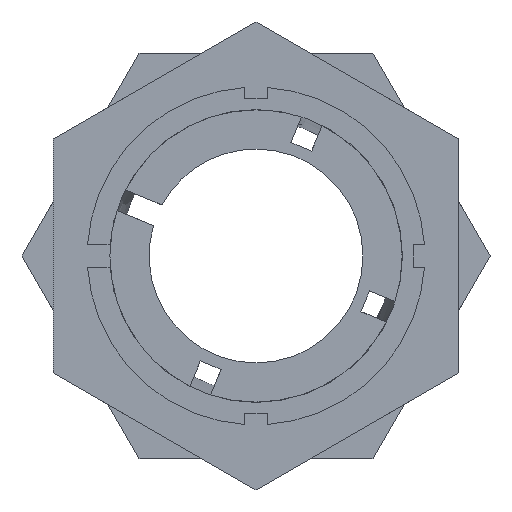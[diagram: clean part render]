
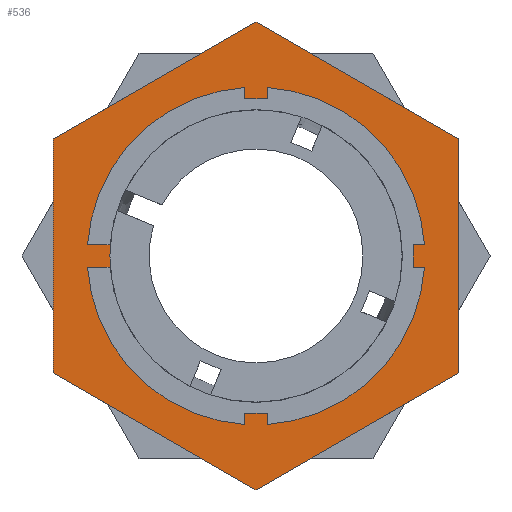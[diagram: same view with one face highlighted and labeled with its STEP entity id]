
A CAD part, left-side view. The second image highlights one B-rep face of the part: STEP entity #536.
In plain terms, the highlighted planar face has unit normal (-1, 0, 0).
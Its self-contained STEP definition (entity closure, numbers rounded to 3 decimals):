
#89 = AXIS2_PLACEMENT_3D ( 'NONE', #1591, #1581, #1580 ) ;
#92 = AXIS2_PLACEMENT_3D ( 'NONE', #1637, #1632, #1630 ) ;
#205 = EDGE_CURVE ( 'NONE', #1766, #1749, #2257, .T. ) ;
#218 = EDGE_CURVE ( 'NONE', #1789, #1843, #783, .T. ) ;
#223 = EDGE_CURVE ( 'NONE', #1911, #1766, #788, .T. ) ;
#229 = EDGE_CURVE ( 'NONE', #1845, #1906, #875, .T. ) ;
#230 = EDGE_CURVE ( 'NONE', #1749, #1845, #874, .T. ) ;
#232 = EDGE_CURVE ( 'NONE', #1843, #1789, #825, .T. ) ;
#233 = EDGE_CURVE ( 'NONE', #1808, #1911, #744, .T. ) ;
#234 = EDGE_CURVE ( 'NONE', #1906, #1808, #852, .T. ) ;
#313 = CARTESIAN_POINT ( 'NONE',  ( 17.52, 0., 12.501 ) ) ;
#328 = CARTESIAN_POINT ( 'NONE',  ( 17.52, -18., -10.392 ) ) ;
#352 = CARTESIAN_POINT ( 'NONE',  ( 17.52, 18., 10.392 ) ) ;
#365 = CARTESIAN_POINT ( 'NONE',  ( 17.52, -18., 10.392 ) ) ;
#508 = ORIENTED_EDGE ( 'NONE', *, *, #234, .T. ) ;
#536 = ADVANCED_FACE ( 'NONE', ( #2033, #2036 ), #1179, .F. ) ;
#575 = ORIENTED_EDGE ( 'NONE', *, *, #218, .F. ) ;
#576 = ORIENTED_EDGE ( 'NONE', *, *, #232, .F. ) ;
#582 = ORIENTED_EDGE ( 'NONE', *, *, #223, .T. ) ;
#583 = ORIENTED_EDGE ( 'NONE', *, *, #233, .T. ) ;
#584 = ORIENTED_EDGE ( 'NONE', *, *, #205, .T. ) ;
#604 = ORIENTED_EDGE ( 'NONE', *, *, #229, .T. ) ;
#605 = ORIENTED_EDGE ( 'NONE', *, *, #230, .T. ) ;
#650 = CARTESIAN_POINT ( 'NONE',  ( 17.52, 0., 20.785 ) ) ;
#658 = CARTESIAN_POINT ( 'NONE',  ( 17.52, 0., -12.501 ) ) ;
#668 = CARTESIAN_POINT ( 'NONE',  ( 17.52, 18., -10.392 ) ) ;
#676 = CARTESIAN_POINT ( 'NONE',  ( 17.52, 0., -20.785 ) ) ;
#744 = LINE ( 'NONE', #1579, #784 ) ;
#748 = VECTOR ( 'NONE', #1612, 1000. ) ;
#783 = CIRCLE ( 'NONE', #92, 12.501 ) ;
#784 = VECTOR ( 'NONE', #1578, 1000. ) ;
#788 = LINE ( 'NONE', #1613, #748 ) ;
#825 = CIRCLE ( 'NONE', #89, 12.501 ) ;
#837 = VECTOR ( 'NONE', #1587, 1000. ) ;
#852 = LINE ( 'NONE', #1576, #897 ) ;
#874 = LINE ( 'NONE', #1588, #837 ) ;
#875 = LINE ( 'NONE', #1606, #938 ) ;
#897 = VECTOR ( 'NONE', #1575, 1000. ) ;
#938 = VECTOR ( 'NONE', #1590, 1000. ) ;
#1102 = CARTESIAN_POINT ( 'NONE',  ( 17.52, 50., 0. ) ) ;
#1123 = DIRECTION ( 'NONE',  ( 0., 0., -1. ) ) ;
#1124 = DIRECTION ( 'NONE',  ( 1., 0., 0. ) ) ;
#1179 = PLANE ( 'NONE',  #1214 ) ;
#1214 = AXIS2_PLACEMENT_3D ( 'NONE', #1102, #1124, #1123 ) ;
#1575 = DIRECTION ( 'NONE',  ( 0., 0.866, 0.5 ) ) ;
#1576 = CARTESIAN_POINT ( 'NONE',  ( 17.52, 0., 20.785 ) ) ;
#1578 = DIRECTION ( 'NONE',  ( 0., 0.866, -0.5 ) ) ;
#1579 = CARTESIAN_POINT ( 'NONE',  ( 17.52, 18., 10.392 ) ) ;
#1580 = DIRECTION ( 'NONE',  ( 0., 0., 1. ) ) ;
#1581 = DIRECTION ( 'NONE',  ( -1., 0., 0. ) ) ;
#1587 = DIRECTION ( 'NONE',  ( 0., -0.866, 0.5 ) ) ;
#1588 = CARTESIAN_POINT ( 'NONE',  ( 17.52, -18., -10.392 ) ) ;
#1590 = DIRECTION ( 'NONE',  ( 0., 0., 1. ) ) ;
#1591 = CARTESIAN_POINT ( 'NONE',  ( 17.52, 0., 0. ) ) ;
#1606 = CARTESIAN_POINT ( 'NONE',  ( 17.52, -18., 10.392 ) ) ;
#1612 = DIRECTION ( 'NONE',  ( 0., 0., -1. ) ) ;
#1613 = CARTESIAN_POINT ( 'NONE',  ( 17.52, 18., -10.392 ) ) ;
#1630 = DIRECTION ( 'NONE',  ( 0., 0., 1. ) ) ;
#1632 = DIRECTION ( 'NONE',  ( -1., 0., 0. ) ) ;
#1637 = CARTESIAN_POINT ( 'NONE',  ( 17.52, 0., 0. ) ) ;
#1677 = DIRECTION ( 'NONE',  ( 0., -0.866, -0.5 ) ) ;
#1679 = CARTESIAN_POINT ( 'NONE',  ( 17.52, 0., -20.785 ) ) ;
#1749 = VERTEX_POINT ( 'NONE', #676 ) ;
#1766 = VERTEX_POINT ( 'NONE', #668 ) ;
#1789 = VERTEX_POINT ( 'NONE', #658 ) ;
#1808 = VERTEX_POINT ( 'NONE', #650 ) ;
#1843 = VERTEX_POINT ( 'NONE', #313 ) ;
#1845 = VERTEX_POINT ( 'NONE', #328 ) ;
#1906 = VERTEX_POINT ( 'NONE', #365 ) ;
#1911 = VERTEX_POINT ( 'NONE', #352 ) ;
#2033 = FACE_BOUND ( 'NONE', #2428, .T. ) ;
#2036 = FACE_OUTER_BOUND ( 'NONE', #2347, .T. ) ;
#2256 = VECTOR ( 'NONE', #1677, 1000. ) ;
#2257 = LINE ( 'NONE', #1679, #2256 ) ;
#2347 = EDGE_LOOP ( 'NONE', ( #583, #582, #584, #605, #604, #508 ) ) ;
#2428 = EDGE_LOOP ( 'NONE', ( #576, #575 ) ) ;
